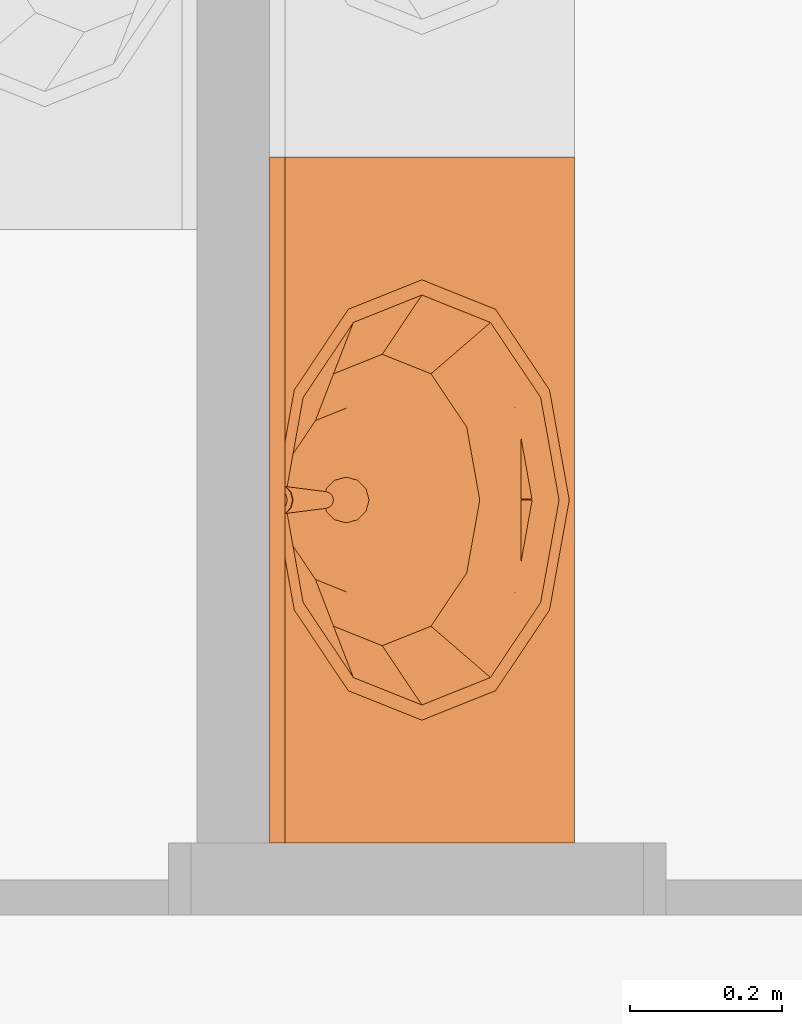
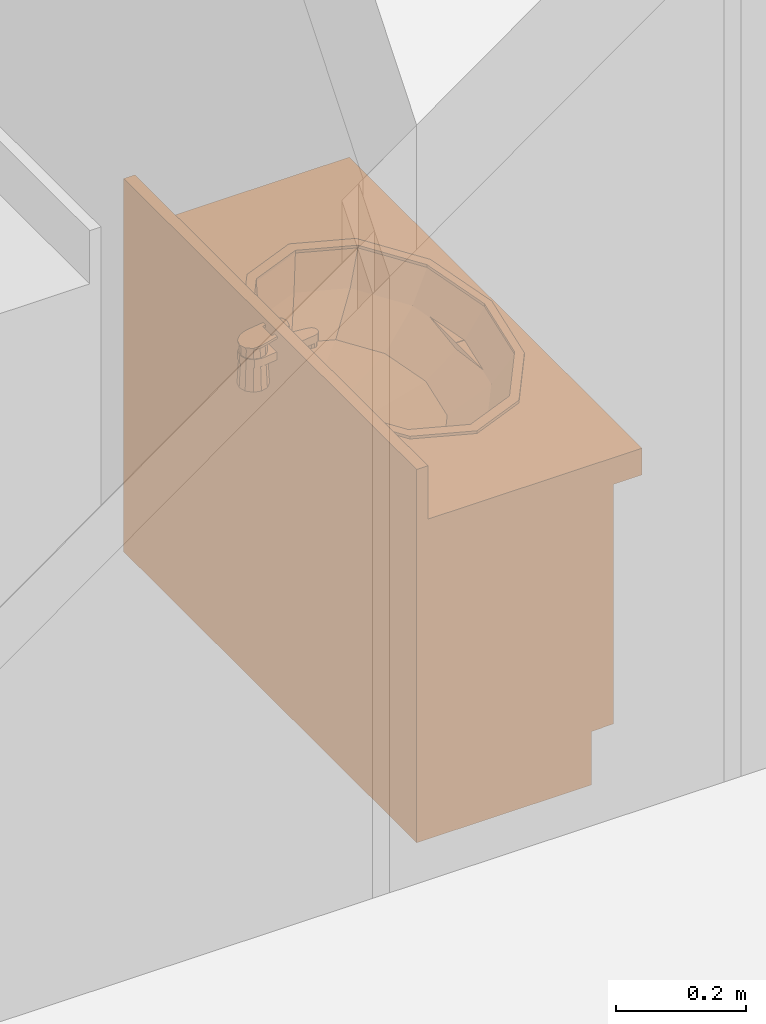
# One storey, part 12 of 14: 1 proxy.
"""IFC2X3 building model written with IfcOpenShell, lengths in millimetres."""

from ifc_helpers import new_model, entity, si_unit, converted_unit, direction, frame, origin_with_axes, place, context, project, spatial, open_shell, faceted_brep, surface_model, material, element, save


model = new_model("IFC2X3")

# Units and contexts
model_context = context("Model", 3, precision=1e-05, world=origin_with_axes(), true_north=direction((0.0, 1.0)))
ifc_project = project(units=[si_unit("LENGTHUNIT", "METRE", prefix="MILLI"), si_unit("AREAUNIT", "SQUARE_METRE"), si_unit("VOLUMEUNIT", "CUBIC_METRE"), converted_unit("PLANEANGLEUNIT", "DEGREE", entity("IfcPlaneAngleMeasure", 0.017453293), si_unit("PLANEANGLEUNIT", "RADIAN"), dimensions=[0, 0, 0, 0, 0, 0, 0]), si_unit("SOLIDANGLEUNIT", "STERADIAN"), si_unit("MASSUNIT", "GRAM"), si_unit("TIMEUNIT", "SECOND"), si_unit("THERMODYNAMICTEMPERATUREUNIT", "DEGREE_CELSIUS"), si_unit("LUMINOUSINTENSITYUNIT", "LUMEN")], contexts=[model_context])

# Site, building, storey
site_placement = place(None, origin_with_axes())
site = spatial("IfcSite", under=ifc_project, at=site_placement, Name="\x83T\x83C\x83g", CompositionType="ELEMENT")
building_placement = place(site_placement, origin_with_axes())
building = spatial("IfcBuilding", under=site, at=building_placement, Name="Daitec-Sample 201208", CompositionType="ELEMENT")
storey_placement = place(building_placement, frame((0.0, 0.0, 8000.0), z_axis=(0.0, 0.0, 1.0), x_axis=(1.0, 0.0, 0.0)))
storey = spatial("IfcBuildingStorey", under=building, at=storey_placement, Name="3F", CompositionType="ELEMENT", Elevation=8000.0)

# Proxy
ifc_material = material(Name="\x94w\x8ci")
proxy_placement = place(storey_placement, frame((21445.071, 21395.126, 0.0), z_axis=(0.0, 0.0, 1.0), x_axis=(0.0, 1.0, 0.0)))
element("IfcBuildingElementProxy", 1, at=proxy_placement, inside=storey, material=ifc_material, Name="O2", context=model_context, shape_type="Brep", body=[
    faceted_brep([(0.0, 90.0, 0.0), (0.0, 90.0, 100.0), (-900.0, 90.0, 100.0), (-900.0, 90.0, 0.0), (0.0, 400.0, 0.0), (0.0, 400.0, 100.0), (-900.0, 400.0, 100.0), (-900.0, 400.0, 0.0)], [[[0, 1, 2, 3]], [[4, 5, 1, 0]], [[1, 5, 6, 2]], [[3, 2, 6, 7]], [[0, 3, 7, 4]], [[7, 6, 5, 4]]]),
    faceted_brep([(0.0, 70.0, 100.0), (0.0, 70.0, 120.0), (-20.0, 70.0, 120.0), (-20.0, 70.0, 100.0), (0.0, 400.0, 100.0), (0.0, 400.0, 120.0), (-20.0, 400.0, 120.0), (-880.0, 400.0, 120.0), (-900.0, 400.0, 120.0), (-900.0, 70.0, 120.0), (-880.0, 70.0, 120.0), (-880.0, 70.0, 100.0), (-900.0, 70.0, 100.0), (-900.0, 400.0, 100.0), (-880.0, 400.0, 100.0), (-20.0, 400.0, 100.0)], [[[0, 1, 2, 3]], [[4, 5, 1, 0]], [[1, 5, 6, 7, 8, 9, 10, 2]], [[3, 2, 10, 11]], [[0, 3, 11, 12, 13, 14, 15, 4]], [[15, 6, 5, 4]], [[14, 7, 6, 15]], [[13, 8, 7, 14]], [[12, 9, 8, 13]], [[11, 10, 9, 12]]]),
    faceted_brep([(0.0, 70.0, 120.0), (0.0, 70.0, 550.0), (-20.0, 70.0, 550.0), (-20.0, 70.0, 120.0), (0.0, 400.0, 120.0), (0.0, 400.0, 550.0), (-900.0, 400.0, 550.0), (-900.0, 70.0, 550.0), (-880.0, 70.0, 550.0), (-880.0, 380.0, 550.0), (-20.0, 380.0, 550.0), (-20.0, 380.0, 120.0), (-880.0, 380.0, 120.0), (-880.0, 70.0, 120.0), (-900.0, 70.0, 120.0), (-900.0, 400.0, 120.0)], [[[0, 1, 2, 3]], [[4, 5, 1, 0]], [[1, 5, 6, 7, 8, 9, 10, 2]], [[3, 2, 10, 11]], [[0, 3, 11, 12, 13, 14, 15, 4]], [[15, 6, 5, 4]], [[14, 7, 6, 15]], [[13, 8, 7, 14]], [[12, 9, 8, 13]], [[11, 10, 9, 12]]]),
    faceted_brep([(-880.0, 70.0, 223.33333), (-880.0, 70.0, 243.33333), (-880.0, 380.0, 243.33333), (-880.0, 380.0, 223.33333), (-20.0, 70.0, 223.33333), (-20.0, 70.0, 243.33333), (-20.0, 380.0, 243.33333), (-20.0, 380.0, 223.33333)], [[[0, 1, 2, 3]], [[4, 5, 1, 0]], [[1, 5, 6, 2]], [[3, 2, 6, 7]], [[0, 3, 7, 4]], [[7, 6, 5, 4]]]),
    faceted_brep([(-880.0, 70.0, 366.66667), (-880.0, 70.0, 386.66667), (-880.0, 380.0, 386.66667), (-880.0, 380.0, 366.66667), (-20.0, 70.0, 366.66667), (-20.0, 70.0, 386.66667), (-20.0, 380.0, 386.66667), (-20.0, 380.0, 366.66667)], [[[0, 1, 2, 3]], [[4, 5, 1, 0]], [[1, 5, 6, 2]], [[3, 2, 6, 7]], [[0, 3, 7, 4]], [[7, 6, 5, 4]]]),
    faceted_brep([(0.0, 400.0, 550.0), (0.0, 0.0, 550.0), (-900.0, 0.0, 550.0), (-900.0, 400.0, 550.0), (-683.82686, 110.0, 550.0), (-585.0, 44.115427, 550.0), (-450.0, 20.0, 550.0), (-315.0, 44.115427, 550.0), (-216.17314, 110.0, 550.0), (-180.0, 200.0, 550.0), (-216.17314, 290.0, 550.0), (-315.0, 355.88457, 550.0), (-450.0, 380.0, 550.0), (-585.0, 355.88457, 550.0), (-683.82686, 290.0, 550.0), (-720.0, 200.0, 550.0), (0.0, 400.0, 600.0), (0.0, 0.0, 600.0), (-900.0, 0.0, 600.0), (-900.0, 400.0, 600.0), (-683.82686, 110.0, 600.0), (-585.0, 44.115427, 600.0), (-450.0, 20.0, 600.0), (-315.0, 44.115427, 600.0), (-216.17314, 110.0, 600.0), (-180.0, 200.0, 600.0), (-216.17314, 290.0, 600.0), (-315.0, 355.88457, 600.0), (-450.0, 380.0, 600.0), (-585.0, 355.88457, 600.0), (-683.82686, 290.0, 600.0), (-720.0, 200.0, 600.0)], [[[0, 1, 2, 3], [4, 5, 6, 7, 8, 9, 10, 11, 12, 13, 14, 15]], [[1, 0, 16, 17]], [[2, 1, 17, 18]], [[3, 2, 18, 19]], [[0, 3, 19, 16]], [[20, 21, 5, 4]], [[21, 22, 6, 5]], [[22, 23, 7, 6]], [[23, 24, 8, 7]], [[24, 25, 9, 8]], [[25, 26, 10, 9]], [[26, 27, 11, 10]], [[27, 28, 12, 11]], [[28, 29, 13, 12]], [[29, 30, 14, 13]], [[30, 31, 15, 14]], [[31, 20, 4, 15]], [[18, 17, 16, 19], [24, 23, 22, 21, 20, 31, 30, 29, 28, 27, 26, 25]]]),
    faceted_brep([(0.0, 380.0, 600.0), (0.0, 380.0, 700.0), (-900.0, 380.0, 700.0), (-900.0, 380.0, 600.0), (0.0, 400.0, 600.0), (0.0, 400.0, 700.0), (-900.0, 400.0, 700.0), (-900.0, 400.0, 600.0)], [[[0, 1, 2, 3]], [[4, 5, 1, 0]], [[1, 5, 6, 2]], [[3, 2, 6, 7]], [[0, 3, 7, 4]], [[7, 6, 5, 4]]]),
    faceted_brep([(-739.0, 200.0, 605.0), (-700.28134, 296.69145, 605.0), (-700.28134, 296.69145, 600.0), (-739.0, 200.0, 600.0), (-700.28134, 103.30855, 605.0), (-594.5, 32.525496, 605.0), (-450.0, 6.6171004, 605.0), (-305.5, 32.525496, 605.0), (-199.71866, 103.30855, 605.0), (-161.0, 200.0, 605.0), (-199.71866, 296.69145, 605.0), (-305.5, 367.4745, 605.0), (-450.0, 393.3829, 605.0), (-594.5, 367.4745, 605.0), (-719.0, 200.0, 605.0), (-682.96083, 290.0, 605.0), (-584.5, 355.88457, 605.0), (-450.0, 380.0, 605.0), (-315.5, 355.88457, 605.0), (-217.03917, 290.0, 605.0), (-181.0, 200.0, 605.0), (-217.03917, 110.0, 605.0), (-315.5, 44.115427, 605.0), (-450.0, 20.0, 605.0), (-584.5, 44.115427, 605.0), (-682.96083, 110.0, 605.0), (-594.5, 367.4745, 600.0), (-450.0, 393.3829, 600.0), (-305.5, 367.4745, 600.0), (-199.71866, 296.69145, 600.0), (-161.0, 200.0, 600.0), (-199.71866, 103.30855, 600.0), (-305.5, 32.525496, 600.0), (-450.0, 6.6171004, 600.0), (-594.5, 32.525496, 600.0), (-700.28134, 103.30855, 600.0), (-719.0, 200.0, 600.0), (-682.96083, 110.0, 600.0), (-584.5, 44.115427, 600.0), (-450.0, 20.0, 600.0), (-315.5, 44.115427, 600.0), (-217.03917, 110.0, 600.0), (-181.0, 200.0, 600.0), (-217.03917, 290.0, 600.0), (-315.5, 355.88457, 600.0), (-450.0, 380.0, 600.0), (-584.5, 355.88457, 600.0), (-682.96083, 290.0, 600.0)], [[[0, 1, 2, 3]], [[0, 4, 5, 6, 7, 8, 9, 10, 11, 12, 13, 1], [14, 15, 16, 17, 18, 19, 20, 21, 22, 23, 24, 25]], [[1, 13, 26, 2]], [[3, 2, 26, 27, 28, 29, 30, 31, 32, 33, 34, 35], [36, 37, 38, 39, 40, 41, 42, 43, 44, 45, 46, 47]], [[4, 0, 3, 35]], [[5, 4, 35, 34]], [[6, 5, 34, 33]], [[7, 6, 33, 32]], [[8, 7, 32, 31]], [[9, 8, 31, 30]], [[10, 9, 30, 29]], [[11, 10, 29, 28]], [[12, 11, 28, 27]], [[13, 12, 27, 26]], [[15, 14, 36, 47]], [[16, 15, 47, 46]], [[17, 16, 46, 45]], [[18, 17, 45, 44]], [[19, 18, 44, 43]], [[20, 19, 43, 42]], [[21, 20, 42, 41]], [[22, 21, 41, 40]], [[23, 22, 40, 39]], [[24, 23, 39, 38]], [[25, 24, 38, 37]], [[14, 25, 37, 36]]]),
    surface_model("IfcShellBasedSurfaceModel", [(-450.0, 380.0, 600.0), (-584.5, 355.88457, 600.0), (-571.05, 358.29612, 548.0), (-450.0, 380.0, 548.0), (-682.96083, 290.0, 600.0), (-659.66475, 299.0, 548.0), (-315.5, 355.88457, 600.0), (-328.95, 358.29612, 548.0), (-719.0, 200.0, 600.0), (-692.1, 218.0, 548.0), (-217.03917, 290.0, 600.0), (-240.33525, 299.0, 548.0), (-682.96083, 110.0, 600.0), (-659.66475, 137.0, 548.0), (-181.0, 200.0, 600.0), (-207.9, 218.0, 548.0), (-584.5, 44.115427, 600.0), (-571.05, 77.703885, 548.0), (-217.03917, 110.0, 600.0), (-240.33525, 137.0, 548.0), (-450.0, 20.0, 600.0), (-450.0, 56.0, 548.0), (-315.5, 44.115427, 600.0), (-328.95, 77.703885, 548.0)], [open_shell([[[0, 1, 2, 3]], [[1, 4, 5, 2]], [[6, 0, 3, 7]], [[4, 8, 9, 5]], [[10, 6, 7, 11]], [[8, 12, 13, 9]], [[14, 10, 11, 15]], [[12, 16, 17, 13]], [[18, 14, 15, 19]], [[16, 20, 21, 17]], [[22, 18, 19, 23]], [[20, 22, 23, 21]]])]),
    surface_model("IfcShellBasedSurfaceModel", [(-450.0, 380.0, 548.0), (-571.05, 358.29612, 548.0), (-545.6295, 362.85393, 496.0), (-450.0, 380.0, 496.0), (-659.66475, 299.0, 548.0), (-615.63515, 316.01, 496.0), (-328.95, 358.29612, 548.0), (-354.3705, 362.85393, 496.0), (-692.1, 218.0, 548.0), (-641.259, 252.02, 496.0), (-240.33525, 299.0, 548.0), (-284.36485, 316.01, 496.0), (-659.66475, 137.0, 548.0), (-615.63515, 188.03, 496.0), (-207.9, 218.0, 548.0), (-258.741, 252.02, 496.0), (-571.05, 77.703885, 548.0), (-545.6295, 141.18607, 496.0), (-240.33525, 137.0, 548.0), (-284.36485, 188.03, 496.0), (-450.0, 56.0, 548.0), (-450.0, 124.04, 496.0), (-328.95, 77.703885, 548.0), (-354.3705, 141.18607, 496.0)], [open_shell([[[0, 1, 2, 3]], [[1, 4, 5, 2]], [[6, 0, 3, 7]], [[4, 8, 9, 5]], [[10, 6, 7, 11]], [[8, 12, 13, 9]], [[14, 10, 11, 15]], [[12, 16, 17, 13]], [[18, 14, 15, 19]], [[16, 20, 21, 17]], [[22, 18, 19, 23]], [[20, 22, 23, 21]]])]),
    surface_model("IfcShellBasedSurfaceModel", [(-450.0, 380.0, 496.0), (-545.6295, 362.85393, 496.0), (-510.24659, 369.19798, 470.0), (-450.0, 380.0, 470.0), (-615.63515, 316.01, 496.0), (-554.35015, 339.6863, 470.0), (-354.3705, 362.85393, 496.0), (-389.75341, 369.19798, 470.0), (-641.259, 252.02, 496.0), (-570.49317, 299.3726, 470.0), (-284.36485, 316.01, 496.0), (-345.64985, 339.6863, 470.0), (-615.63515, 188.03, 496.0), (-554.35015, 259.0589, 470.0), (-258.741, 252.02, 496.0), (-329.50683, 299.3726, 470.0), (-545.6295, 141.18607, 496.0), (-510.24659, 229.54722, 470.0), (-284.36485, 188.03, 496.0), (-345.64985, 259.0589, 470.0), (-450.0, 124.04, 496.0), (-450.0, 218.7452, 470.0), (-354.3705, 141.18607, 496.0), (-389.75341, 229.54722, 470.0)], [open_shell([[[0, 1, 2, 3]], [[1, 4, 5, 2]], [[6, 0, 3, 7]], [[4, 8, 9, 5]], [[10, 6, 7, 11]], [[8, 12, 13, 9]], [[14, 10, 11, 15]], [[12, 16, 17, 13]], [[18, 14, 15, 19]], [[16, 20, 21, 17]], [[22, 18, 19, 23]], [[20, 22, 23, 21]]])]),
    surface_model("IfcShellBasedSurfaceModel", [(-450.0, 380.0, 470.0), (-510.24659, 369.19798, 470.0), (-465.0, 325.35336, 463.0), (-475.98076, 314.3726, 463.0), (-450.0, 329.3726, 463.0), (-554.35015, 339.6863, 470.0), (-389.75341, 369.19798, 470.0), (-480.0, 299.3726, 463.0), (-435.0, 325.35336, 463.0), (-570.49317, 299.3726, 470.0), (-345.64985, 339.6863, 470.0), (-475.98076, 284.3726, 463.0), (-424.01924, 314.3726, 463.0), (-554.35015, 259.0589, 470.0), (-329.50683, 299.3726, 470.0), (-465.0, 273.39184, 463.0), (-420.0, 299.3726, 463.0), (-510.24659, 229.54722, 470.0), (-345.64985, 259.0589, 470.0), (-450.0, 269.3726, 463.0), (-424.01924, 284.3726, 463.0), (-450.0, 218.7452, 470.0), (-389.75341, 229.54722, 470.0), (-435.0, 273.39184, 463.0)], [open_shell([[[0, 1, 2]], [[1, 3, 2]], [[0, 2, 4]], [[1, 5, 3]], [[6, 0, 4]], [[5, 7, 3]], [[6, 4, 8]], [[5, 9, 7]], [[10, 6, 8]], [[9, 11, 7]], [[10, 8, 12]], [[9, 13, 11]], [[14, 10, 12]], [[13, 15, 11]], [[14, 12, 16]], [[13, 17, 15]], [[18, 14, 16]], [[17, 19, 15]], [[18, 16, 20]], [[17, 21, 19]], [[22, 18, 20]], [[21, 23, 19]], [[22, 20, 23]], [[21, 22, 23]]])]),
    surface_model("IfcShellBasedSurfaceModel", [(-480.0, 299.3726, 463.0), (-475.98076, 314.3726, 463.0), (-475.98076, 314.3726, 458.0), (-480.0, 299.3726, 458.0), (-465.0, 325.35336, 463.0), (-465.0, 325.35336, 458.0), (-450.0, 329.3726, 458.0), (-435.0, 325.35336, 458.0), (-424.01924, 314.3726, 458.0), (-420.0, 299.3726, 458.0), (-424.01924, 284.3726, 458.0), (-435.0, 273.39184, 458.0), (-450.0, 269.3726, 458.0), (-465.0, 273.39184, 458.0), (-475.98076, 284.3726, 458.0), (-475.98076, 284.3726, 463.0), (-450.0, 329.3726, 463.0), (-435.0, 325.35336, 463.0), (-424.01924, 314.3726, 463.0), (-420.0, 299.3726, 463.0), (-424.01924, 284.3726, 463.0), (-435.0, 273.39184, 463.0), (-450.0, 269.3726, 463.0), (-465.0, 273.39184, 463.0)], [open_shell([[[0, 1, 2, 3]], [[1, 4, 5, 2]], [[3, 2, 5, 6, 7, 8, 9, 10, 11, 12, 13, 14]], [[15, 0, 3, 14]], [[4, 16, 6, 5]], [[16, 17, 7, 6]], [[17, 18, 8, 7]], [[18, 19, 9, 8]], [[19, 20, 10, 9]], [[20, 21, 11, 10]], [[21, 22, 12, 11]], [[22, 23, 13, 12]], [[23, 15, 14, 13]]])]),
    faceted_brep([(-462.5, 451.65064, 600.0), (-460.58732, 448.33778, 676.50709), (-450.0, 451.20192, 675.96154), (-450.0, 455.0, 600.0), (-471.65064, 442.5, 600.0), (-468.27355, 440.55024, 677.99043), (-471.0, 430.0, 680.0), (-468.10034, 419.54976, 681.99052), (-460.41411, 411.96224, 683.43576), (-450.0, 409.19811, 683.96226), (-439.58589, 411.96224, 683.43576), (-431.89966, 419.54976, 681.99052), (-429.0, 430.0, 680.0), (-431.72645, 440.55024, 677.99043), (-439.41268, 448.33778, 676.50709), (-437.5, 451.65064, 600.0), (-428.34936, 442.5, 600.0), (-425.0, 430.0, 600.0), (-428.34936, 417.5, 600.0), (-437.5, 408.34936, 600.0), (-450.0, 405.0, 600.0), (-462.5, 408.34936, 600.0), (-471.65064, 417.5, 600.0), (-475.0, 430.0, 600.0)], [[[0, 1, 2, 3]], [[4, 5, 1, 0]], [[1, 5, 6, 7, 8, 9, 10, 11, 12, 13, 14, 2]], [[3, 2, 14, 15]], [[0, 3, 15, 16, 17, 18, 19, 20, 21, 22, 23, 4]], [[23, 6, 5, 4]], [[22, 7, 6, 23]], [[21, 8, 7, 22]], [[20, 9, 8, 21]], [[19, 10, 9, 20]], [[18, 11, 10, 19]], [[17, 12, 11, 18]], [[16, 13, 12, 17]], [[15, 14, 13, 16]]]),
    faceted_brep([(-459.0, 327.0, 635.0), (-459.0, 327.0, 645.0), (-457.79423, 331.5, 645.0), (-457.79423, 331.5, 635.0), (-457.79423, 322.5, 635.0), (-457.79423, 322.5, 645.0), (-454.5, 319.20577, 645.0), (-450.0, 318.0, 645.0), (-445.5, 319.20577, 645.0), (-442.20577, 322.5, 645.0), (-441.0, 327.0, 645.0), (-442.20577, 331.5, 645.0), (-445.5, 334.79423, 645.0), (-450.0, 336.0, 645.0), (-454.5, 334.79423, 645.0), (-454.5, 334.79423, 635.0), (-450.0, 336.0, 635.0), (-445.5, 334.79423, 635.0), (-442.20577, 331.5, 635.0), (-441.0, 327.0, 635.0), (-442.20577, 322.5, 635.0), (-445.5, 319.20577, 635.0), (-450.0, 318.0, 635.0), (-454.5, 319.20577, 635.0)], [[[0, 1, 2, 3]], [[4, 5, 1, 0]], [[1, 5, 6, 7, 8, 9, 10, 11, 12, 13, 14, 2]], [[3, 2, 14, 15]], [[0, 3, 15, 16, 17, 18, 19, 20, 21, 22, 23, 4]], [[23, 6, 5, 4]], [[22, 7, 6, 23]], [[21, 8, 7, 22]], [[20, 9, 8, 21]], [[19, 10, 9, 20]], [[18, 11, 10, 19]], [[17, 12, 11, 18]], [[16, 13, 12, 17]], [[15, 14, 13, 16]]]),
    faceted_brep([(-440.97112, 320.71681, 660.0), (-439.08801, 325.61163, 660.0), (-426.1946, 426.9501, 660.0), (-428.27219, 440.19321, 660.0), (-437.12828, 450.2563, 660.0), (-450.0, 453.99998, 660.0), (-462.87172, 450.2563, 660.0), (-471.72781, 440.1932, 660.0), (-473.8054, 426.9501, 660.0), (-460.912, 325.6117, 660.0), (-459.02892, 320.71687, 660.0), (-455.09339, 317.25031, 660.0), (-450.00004, 316.00004, 660.0), (-444.90668, 317.25027, 660.0), (-430.94744, 419.0, 660.0), (-439.0, 410.94744, 660.0), (-450.0, 408.0, 660.0), (-461.0, 410.94744, 660.0), (-469.05256, 419.0, 660.0), (-472.0, 430.0, 660.0), (-469.05256, 441.0, 660.0), (-461.0, 449.05256, 660.0), (-450.0, 452.0, 660.0), (-439.0, 449.05256, 660.0), (-430.94744, 441.0, 660.0), (-428.0, 430.0, 660.0), (-440.97112, 320.71681, 645.0), (-439.08801, 325.61163, 645.0), (-426.1946, 426.9501, 645.0), (-428.27219, 440.19321, 645.0), (-437.12828, 450.2563, 645.0), (-450.0, 453.99998, 645.0), (-462.87172, 450.2563, 645.0), (-471.72781, 440.1932, 645.0), (-473.8054, 426.9501, 645.0), (-460.912, 325.6117, 645.0), (-459.02892, 320.71687, 645.0), (-455.09339, 317.25031, 645.0), (-450.00004, 316.00004, 645.0), (-444.90668, 317.25027, 645.0), (-430.29792, 418.625, 645.0), (-438.625, 410.29792, 645.0), (-450.0, 407.25, 645.0), (-461.375, 410.29792, 645.0), (-469.70208, 418.625, 645.0), (-472.75, 430.0, 645.0), (-469.70208, 441.375, 645.0), (-461.375, 449.70208, 645.0), (-450.0, 452.75, 645.0), (-438.625, 449.70208, 645.0), (-430.29792, 441.375, 645.0), (-427.25, 430.0, 645.0)], [[[0, 1, 2, 3, 4, 5, 6, 7, 8, 9, 10, 11, 12, 13], [14, 15, 16, 17, 18, 19, 20, 21, 22, 23, 24, 25]], [[26, 27, 1, 0]], [[27, 28, 2, 1]], [[28, 29, 3, 2]], [[29, 30, 4, 3]], [[30, 31, 5, 4]], [[31, 32, 6, 5]], [[32, 33, 7, 6]], [[33, 34, 8, 7]], [[34, 35, 9, 8]], [[35, 36, 10, 9]], [[36, 37, 11, 10]], [[37, 38, 12, 11]], [[38, 39, 13, 12]], [[39, 26, 0, 13]], [[40, 41, 15, 14]], [[41, 42, 16, 15]], [[42, 43, 17, 16]], [[43, 44, 18, 17]], [[44, 45, 19, 18]], [[20, 19, 45, 46]], [[21, 20, 46, 47]], [[22, 21, 47, 48]], [[23, 22, 48, 49]], [[24, 23, 49, 50]], [[50, 51, 25, 24]], [[51, 40, 14, 25]], [[28, 27, 26, 39, 38, 37, 36, 35, 34, 33, 32, 31, 30, 29], [44, 43, 42, 41, 40, 51, 50, 49, 48, 47, 46, 45]]]),
    faceted_brep([(-473.893, 428.30743, 680.32239), (-473.893, 429.05588, 684.25175), (-471.29642, 441.52317, 681.87703), (-471.29642, 440.77472, 677.94767), (-470.94594, 388.1633, 687.9689), (-470.94594, 388.91175, 691.89825), (-467.66314, 379.23408, 693.74161), (-460.06144, 372.2847, 695.06531), (-449.99956, 369.76284, 695.54566), (-439.93779, 372.28512, 695.06523), (-432.33638, 379.23481, 693.74148), (-429.054, 388.91261, 691.89808), (-426.10698, 429.05616, 684.2517), (-428.70371, 441.52342, 681.87698), (-437.52832, 450.83965, 680.10246), (-450.00014, 454.28041, 679.44708), (-462.47192, 450.8395, 680.10249), (-464.0, 405.20765, 688.79427), (-436.0, 405.20765, 688.79427), (-436.0, 390.39202, 691.61629), (-437.87564, 383.51565, 692.92608), (-443.0, 378.48179, 693.88491), (-450.0, 376.63928, 694.23586), (-457.0, 378.48179, 693.88491), (-462.12436, 383.51565, 692.92608), (-464.0, 390.39202, 691.61629), (-462.47192, 450.09105, 676.17313), (-450.00014, 453.53196, 675.51772), (-437.52832, 450.0912, 676.17311), (-428.70371, 440.77497, 677.94763), (-426.10698, 428.30771, 680.32234), (-429.054, 388.16417, 687.96873), (-432.33638, 378.48636, 689.81212), (-439.93779, 371.53667, 691.13587), (-449.99956, 369.01439, 691.61631), (-460.06144, 371.53625, 691.13595), (-467.66314, 378.48563, 689.81226), (-464.0, 404.4592, 684.86491), (-464.0, 389.64357, 687.68694), (-462.12436, 382.7672, 688.99672), (-457.0, 377.73334, 689.95555), (-450.0, 375.89083, 690.30651), (-443.0, 377.73334, 689.95555), (-437.87564, 382.7672, 688.99672), (-436.0, 389.64357, 687.68694), (-436.0, 404.4592, 684.86491)], [[[0, 1, 2, 3]], [[4, 5, 1, 0]], [[1, 5, 6, 7, 8, 9, 10, 11, 12, 13, 14, 15, 16, 2], [17, 18, 19, 20, 21, 22, 23, 24, 25]], [[3, 2, 16, 26]], [[0, 3, 26, 27, 28, 29, 30, 31, 32, 33, 34, 35, 36, 4], [37, 38, 39, 40, 41, 42, 43, 44, 45]], [[36, 6, 5, 4]], [[35, 7, 6, 36]], [[34, 8, 7, 35]], [[33, 9, 8, 34]], [[32, 10, 9, 33]], [[31, 11, 10, 32]], [[30, 12, 11, 31]], [[29, 13, 12, 30]], [[28, 14, 13, 29]], [[27, 15, 14, 28]], [[26, 16, 15, 27]], [[45, 18, 17, 37]], [[44, 19, 18, 45]], [[43, 20, 19, 44]], [[42, 21, 20, 43]], [[41, 22, 21, 42]], [[40, 23, 22, 41]], [[39, 24, 23, 40]], [[38, 25, 24, 39]], [[37, 17, 25, 38]]]),
    faceted_brep([(0.0, 70.0, 100.0), (0.0, 50.0, 100.0), (-449.0, 50.0, 100.0), (-449.0, 70.0, 100.0), (0.0, 70.0, 549.0), (0.0, 50.0, 549.0), (-449.0, 50.0, 549.0), (-449.0, 70.0, 549.0)], [[[0, 1, 2, 3]], [[4, 5, 1, 0]], [[1, 5, 6, 2]], [[3, 2, 6, 7]], [[0, 3, 7, 4]], [[7, 6, 5, 4]]]),
    faceted_brep([(-409.3923, 50.0, 484.0), (-411.0, 50.0, 490.0), (-409.3923, 50.0, 496.0), (-405.0, 50.0, 500.3923), (-399.0, 50.0, 502.0), (-393.0, 50.0, 500.3923), (-388.6077, 50.0, 496.0), (-387.0, 50.0, 490.0), (-388.6077, 50.0, 484.0), (-393.0, 50.0, 479.6077), (-399.0, 50.0, 478.0), (-405.0, 50.0, 479.6077), (-409.3923, 25.0, 484.0), (-411.0, 25.0, 490.0), (-409.3923, 25.0, 496.0), (-405.0, 25.0, 500.3923), (-399.0, 25.0, 502.0), (-393.0, 25.0, 500.3923), (-388.6077, 25.0, 496.0), (-387.0, 25.0, 490.0), (-388.6077, 25.0, 484.0), (-393.0, 25.0, 479.6077), (-399.0, 25.0, 478.0), (-405.0, 25.0, 479.6077)], [[[0, 1, 2, 3, 4, 5, 6, 7, 8, 9, 10, 11]], [[0, 12, 13, 1]], [[1, 13, 14, 2]], [[2, 14, 15, 3]], [[3, 15, 16, 4]], [[4, 16, 17, 5]], [[5, 17, 18, 6]], [[6, 18, 19, 7]], [[7, 19, 20, 8]], [[8, 20, 21, 9]], [[9, 21, 22, 10]], [[10, 22, 23, 11]], [[11, 23, 12, 0]], [[12, 23, 22, 21, 20, 19, 18, 17, 16, 15, 14, 13]]]),
    faceted_brep([(-899.0, 70.0, 100.0), (-450.0, 70.0, 100.0), (-450.0, 50.0, 100.0), (-899.0, 50.0, 100.0), (-899.0, 70.0, 549.0), (-450.0, 70.0, 549.0), (-450.0, 50.0, 549.0), (-899.0, 50.0, 549.0)], [[[0, 1, 2, 3]], [[0, 4, 5, 1]], [[1, 5, 6, 2]], [[3, 2, 6, 7]], [[4, 0, 3, 7]], [[5, 4, 7, 6]]]),
    faceted_brep([(-489.6077, 50.0, 484.0), (-494.0, 50.0, 479.6077), (-500.0, 50.0, 478.0), (-506.0, 50.0, 479.6077), (-510.3923, 50.0, 484.0), (-512.0, 50.0, 490.0), (-510.3923, 50.0, 496.0), (-506.0, 50.0, 500.3923), (-500.0, 50.0, 502.0), (-494.0, 50.0, 500.3923), (-489.6077, 50.0, 496.0), (-488.0, 50.0, 490.0), (-489.6077, 25.0, 484.0), (-494.0, 25.0, 479.6077), (-500.0, 25.0, 478.0), (-506.0, 25.0, 479.6077), (-510.3923, 25.0, 484.0), (-512.0, 25.0, 490.0), (-510.3923, 25.0, 496.0), (-506.0, 25.0, 500.3923), (-500.0, 25.0, 502.0), (-494.0, 25.0, 500.3923), (-489.6077, 25.0, 496.0), (-488.0, 25.0, 490.0)], [[[0, 1, 2, 3, 4, 5, 6, 7, 8, 9, 10, 11]], [[1, 0, 12, 13]], [[2, 1, 13, 14]], [[3, 2, 14, 15]], [[4, 3, 15, 16]], [[5, 4, 16, 17]], [[6, 5, 17, 18]], [[7, 6, 18, 19]], [[8, 7, 19, 20]], [[9, 8, 20, 21]], [[10, 9, 21, 22]], [[11, 10, 22, 23]], [[0, 11, 23, 12]], [[12, 23, 22, 21, 20, 19, 18, 17, 16, 15, 14, 13]]]),
])

save(model, "model.ifc")
